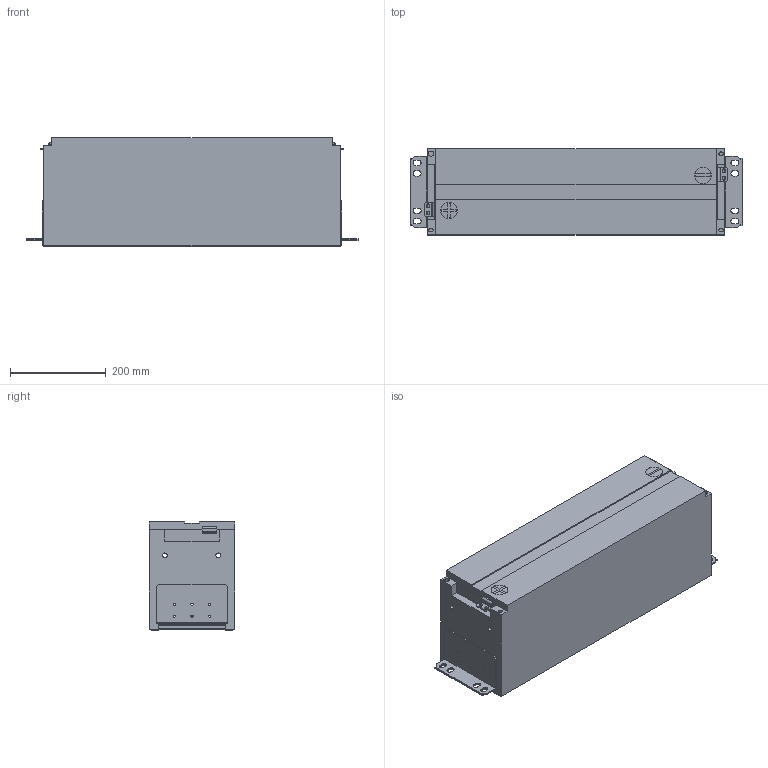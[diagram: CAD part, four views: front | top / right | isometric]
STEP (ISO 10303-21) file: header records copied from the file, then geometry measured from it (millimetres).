
FILE_DESCRIPTION(('CATIA V5 STEP Exchange'),'2;1');
FILE_NAME('E:\work\【02】CBB\二代、三代模组参数化模型\176Ah-11000-1P11S.stp','2017-02-16T07:23:30+00:00',('none'),('none'),'CATIA Version 5 Release 21 GA (IN-10)','CATIA V5 STEP AP214','none');
FILE_SCHEMA(('AUTOMOTIVE_DESIGN { 1 0 10303 214 1 1 1 1 }'));
Length unit declared in the file: millimetre
Products named in the file (1): N176-240M-11000-All
Bounding box: 695.2 x 180 x 226.6 mm (x, y, z)
Volume: 24873376.4 mm3; surface area: 978327.5 mm2
Topology: 4 solids, 4 shells, 244 faces, 692 edges, 472 vertices
Faces by surface type: plane 158, cylinder 86
Entity records: 7662 total; most frequent: ORIENTED_EDGE 1368, CARTESIAN_POINT 1350, DIRECTION 1062, EDGE_CURVE 684, VECTOR 520, LINE 520, VERTEX_POINT 456, AXIS2_PLACEMENT_3D 358
